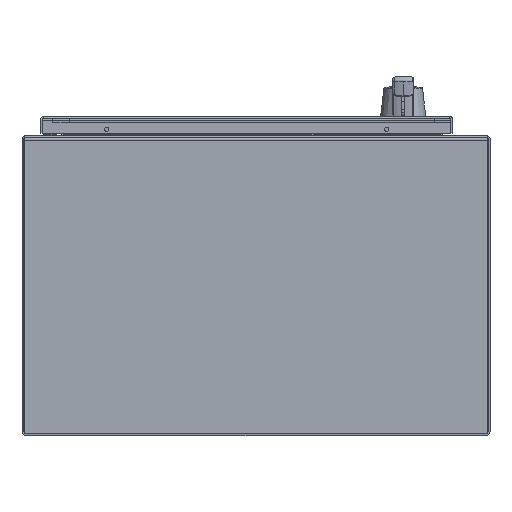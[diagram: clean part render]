
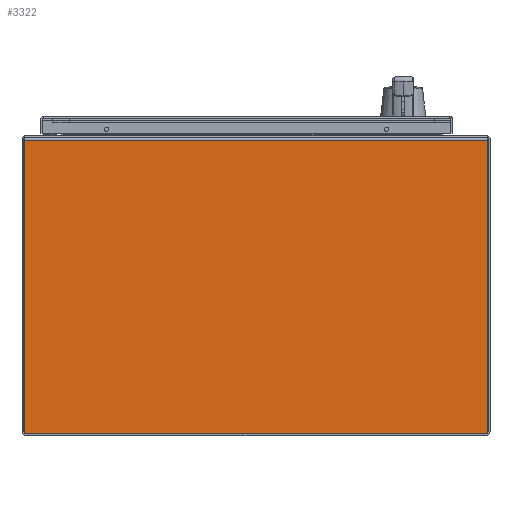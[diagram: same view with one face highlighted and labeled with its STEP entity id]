
A CAD part, front view. The second image highlights one B-rep face of the part: STEP entity #3322.
In plain terms, the highlighted planar face has unit normal (0, -1, 0).
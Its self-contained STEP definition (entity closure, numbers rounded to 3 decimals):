
#3322 = ADVANCED_FACE ( 'NONE', ( #72452 ), #74173, .T. ) ;
#40680 = ORIENTED_EDGE ( 'NONE', *, *, #67349, .F. ) ;
#40681 = ORIENTED_EDGE ( 'NONE', *, *, #67347, .T. ) ;
#40682 = ORIENTED_EDGE ( 'NONE', *, *, #67344, .F. ) ;
#40683 = ORIENTED_EDGE ( 'NONE', *, *, #67354, .F. ) ;
#51690 = CARTESIAN_POINT ( 'NONE',  ( 13.984, 0., 0. ) ) ;
#51697 = CARTESIAN_POINT ( 'NONE',  ( -13.984, 0., 17.714 ) ) ;
#51701 = CARTESIAN_POINT ( 'NONE',  ( -13.984, 0., 0. ) ) ;
#51706 = CARTESIAN_POINT ( 'NONE',  ( 13.984, 0., 17.714 ) ) ;
#59618 = EDGE_LOOP ( 'NONE', ( #40680, #40681, #40682, #40683 ) ) ;
#67344 = EDGE_CURVE ( 'NONE', #112854, #112847, #120355, .T. ) ;
#67347 = EDGE_CURVE ( 'NONE', #112861, #112847, #120363, .T. ) ;
#67349 = EDGE_CURVE ( 'NONE', #112861, #112837, #120357, .T. ) ;
#67354 = EDGE_CURVE ( 'NONE', #112837, #112854, #120369, .T. ) ;
#72208 = AXIS2_PLACEMENT_3D ( 'NONE', #74163, #74184, #74185 ) ;
#72452 = FACE_OUTER_BOUND ( 'NONE', #59618, .T. ) ;
#74163 = CARTESIAN_POINT ( 'NONE',  ( -13.984, 0., 0. ) ) ;
#74173 = PLANE ( 'NONE',  #72208 ) ;
#74184 = DIRECTION ( 'NONE',  ( 0., -1., 0. ) ) ;
#74185 = DIRECTION ( 'NONE',  ( 0., 0., -1. ) ) ;
#112837 = VERTEX_POINT ( 'NONE', #51690 ) ;
#112847 = VERTEX_POINT ( 'NONE', #51697 ) ;
#112854 = VERTEX_POINT ( 'NONE', #51701 ) ;
#112861 = VERTEX_POINT ( 'NONE', #51706 ) ;
#118645 = CARTESIAN_POINT ( 'NONE',  ( -13.984, 0., 17.984 ) ) ;
#118652 = CARTESIAN_POINT ( 'NONE',  ( 13.984, 0., 17.984 ) ) ;
#118654 = DIRECTION ( 'NONE',  ( 0., 0., 1. ) ) ;
#118656 = CARTESIAN_POINT ( 'NONE',  ( 13.984, 0., 17.714 ) ) ;
#118657 = DIRECTION ( 'NONE',  ( -1., 0., 0. ) ) ;
#118662 = DIRECTION ( 'NONE',  ( 0., 0., -1. ) ) ;
#118671 = CARTESIAN_POINT ( 'NONE',  ( -13.984, 0., 0. ) ) ;
#118672 = DIRECTION ( 'NONE',  ( -1., 0., 0. ) ) ;
#120355 = LINE ( 'NONE', #118645, #120362 ) ;
#120357 = LINE ( 'NONE', #118652, #120365 ) ;
#120362 = VECTOR ( 'NONE', #118654, 39.37 ) ;
#120363 = LINE ( 'NONE', #118656, #120364 ) ;
#120364 = VECTOR ( 'NONE', #118657, 39.37 ) ;
#120365 = VECTOR ( 'NONE', #118662, 39.37 ) ;
#120369 = LINE ( 'NONE', #118671, #120370 ) ;
#120370 = VECTOR ( 'NONE', #118672, 39.37 ) ;
